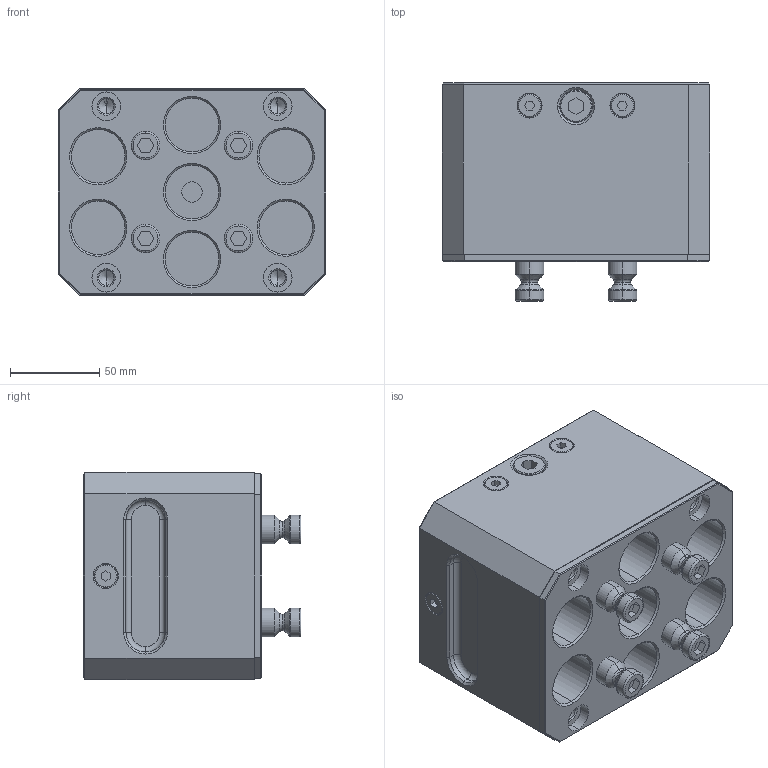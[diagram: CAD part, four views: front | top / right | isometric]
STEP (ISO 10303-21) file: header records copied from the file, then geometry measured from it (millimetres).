
FILE_DESCRIPTION (( 'STEP AP203' ), '1' );
FILE_NAME ('45157.STEP', '2016-10-04T13:21:54', ( '' ), ( '' ), 'SwSTEP 2.0', 'SolidWorks 2015', '' );
FILE_SCHEMA (( 'CONFIG_CONTROL_DESIGN' ));
Length unit declared in the file: millimetre
Products named in the file (1): 45157
Bounding box: 150 x 122 x 116 mm (x, y, z)
Volume: 1260574.1 mm3; surface area: 169955.4 mm2
Topology: 13 solids, 13 shells, 500 faces, 1123 edges, 662 vertices
Faces by surface type: plane 172, cylinder 150, cone 130, torus 48
Entity records: 14538 total; most frequent: CARTESIAN_POINT 3242, DIRECTION 2489, ORIENTED_EDGE 2198, EDGE_CURVE 1099, AXIS2_PLACEMENT_3D 951, VERTEX_POINT 662, LINE 587, VECTOR 587
